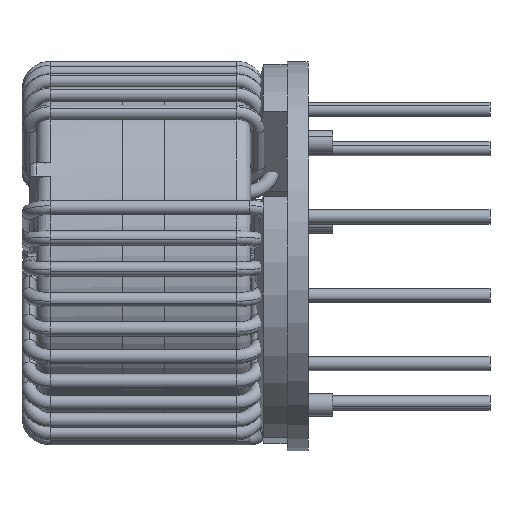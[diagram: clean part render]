
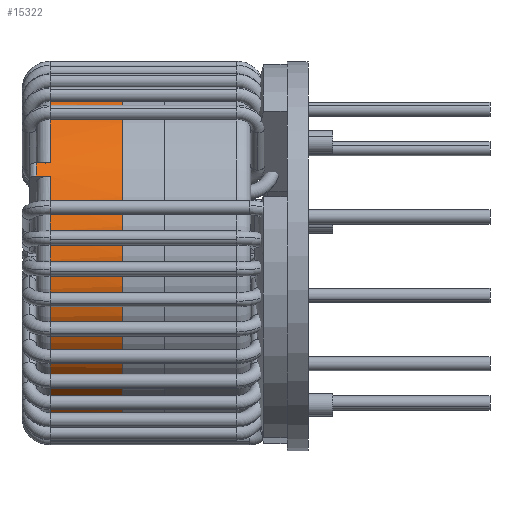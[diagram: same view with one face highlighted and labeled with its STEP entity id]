
A CAD part, left-side view. The second image highlights one B-rep face of the part: STEP entity #15322.
In plain terms, the highlighted cylindrical face has radius 12.5 mm (diameter 25 mm), a partial arc.
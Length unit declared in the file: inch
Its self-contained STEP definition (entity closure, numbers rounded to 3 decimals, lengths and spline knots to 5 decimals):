
#1398 = CARTESIAN_POINT ( 'NONE',  ( 0., 0.26414, 0. ) ) ;
#1488 = LINE ( 'NONE', #17564, #2084 ) ;
#2084 = VECTOR ( 'NONE', #5197, 39.37008 ) ;
#2673 = EDGE_CURVE ( 'NONE', #7627, #4519, #6590, .T. ) ;
#2676 = EDGE_CURVE ( 'NONE', #13540, #11948, #1488, .T. ) ;
#3465 = FACE_OUTER_BOUND ( 'NONE', #15263, .T. ) ;
#4116 = EDGE_CURVE ( 'NONE', #13121, #6235, #28099, .T. ) ;
#4519 = VERTEX_POINT ( 'NONE', #11936 ) ;
#5197 = DIRECTION ( 'NONE',  ( 0., 1., 0. ) ) ;
#5205 = ORIENTED_EDGE ( 'NONE', *, *, #4116, .T. ) ;
#5305 = DIRECTION ( 'NONE',  ( 0., -1., 0. ) ) ;
#5404 = CARTESIAN_POINT ( 'NONE',  ( 0., 0.30351, -0.49213 ) ) ;
#5520 = AXIS2_PLACEMENT_3D ( 'NONE', #17673, #5305, #19038 ) ;
#6235 = VERTEX_POINT ( 'NONE', #25144 ) ;
#6239 = VECTOR ( 'NONE', #24520, 39.37008 ) ;
#6578 = CARTESIAN_POINT ( 'NONE',  ( -0.4366, 0.26414, 0.22709 ) ) ;
#6590 = LINE ( 'NONE', #16663, #13218 ) ;
#6687 = VECTOR ( 'NONE', #25268, 39.37008 ) ;
#6707 = CARTESIAN_POINT ( 'NONE',  ( 0., 0.26414, 0. ) ) ;
#7139 = CARTESIAN_POINT ( 'NONE',  ( 0., 0.26414, 0.49213 ) ) ;
#7251 = CIRCLE ( 'NONE', #19429, 0.49213 ) ;
#7627 = VERTEX_POINT ( 'NONE', #7139 ) ;
#8431 = ORIENTED_EDGE ( 'NONE', *, *, #2676, .F. ) ;
#8796 = CIRCLE ( 'NONE', #15620, 0.49213 ) ;
#9249 = DIRECTION ( 'NONE',  ( 0., 1., 0. ) ) ;
#9411 = EDGE_CURVE ( 'NONE', #15785, #22560, #20160, .T. ) ;
#9482 = ORIENTED_EDGE ( 'NONE', *, *, #27145, .T. ) ;
#9705 = CARTESIAN_POINT ( 'NONE',  ( 0., 0.30351, 0. ) ) ;
#10078 = EDGE_CURVE ( 'NONE', #19895, #11948, #14192, .T. ) ;
#10574 = CARTESIAN_POINT ( 'NONE',  ( -0.02163, 0.24446, -0.49165 ) ) ;
#11366 = DIRECTION ( 'NONE',  ( 0., 1., 0. ) ) ;
#11738 = LINE ( 'NONE', #27506, #6687 ) ;
#11936 = CARTESIAN_POINT ( 'NONE',  ( 0., 0.05906, 0.49213 ) ) ;
#11948 = VERTEX_POINT ( 'NONE', #20629 ) ;
#12114 = ORIENTED_EDGE ( 'NONE', *, *, #9411, .T. ) ;
#13036 = DIRECTION ( 'NONE',  ( 0., -1., 0. ) ) ;
#13121 = VERTEX_POINT ( 'NONE', #5404 ) ;
#13148 = CIRCLE ( 'NONE', #26070, 0.49213 ) ;
#13218 = VECTOR ( 'NONE', #13036, 39.37008 ) ;
#13419 = DIRECTION ( 'NONE',  ( 0., 0., 1. ) ) ;
#13540 = VERTEX_POINT ( 'NONE', #6578 ) ;
#14192 = CIRCLE ( 'NONE', #15935, 0.49213 ) ;
#14308 = DIRECTION ( 'NONE',  ( 0., 0., 1. ) ) ;
#14807 = ORIENTED_EDGE ( 'NONE', *, *, #2673, .F. ) ;
#15012 = DIRECTION ( 'NONE',  ( 0., 0., 1. ) ) ;
#15263 = EDGE_LOOP ( 'NONE', ( #14807, #18788, #9482, #18919, #8431, #23805, #12114, #28043, #5205, #15693 ) ) ;
#15322 = ADVANCED_FACE ( 'NONE', ( #3465 ), #16796, .T. ) ;
#15620 = AXIS2_PLACEMENT_3D ( 'NONE', #19986, #11366, #15012 ) ;
#15693 = ORIENTED_EDGE ( 'NONE', *, *, #19272, .T. ) ;
#15785 = VERTEX_POINT ( 'NONE', #21062 ) ;
#15935 = AXIS2_PLACEMENT_3D ( 'NONE', #9705, #22862, #13419 ) ;
#16273 = EDGE_CURVE ( 'NONE', #13540, #15785, #13148, .T. ) ;
#16489 = CIRCLE ( 'NONE', #19795, 0.49213 ) ;
#16510 = VECTOR ( 'NONE', #9249, 39.37008 ) ;
#16663 = CARTESIAN_POINT ( 'NONE',  ( 0., 0.30351, 0.49213 ) ) ;
#16796 = CYLINDRICAL_SURFACE ( 'NONE', #5520, 0.49213 ) ;
#17564 = CARTESIAN_POINT ( 'NONE',  ( -0.4366, 0.24446, 0.22709 ) ) ;
#17673 = CARTESIAN_POINT ( 'NONE',  ( 0., 0.30351, 0. ) ) ;
#18788 = ORIENTED_EDGE ( 'NONE', *, *, #25477, .T. ) ;
#18919 = ORIENTED_EDGE ( 'NONE', *, *, #10078, .T. ) ;
#19038 = DIRECTION ( 'NONE',  ( 0., 0., -1. ) ) ;
#19046 = DIRECTION ( 'NONE',  ( 0., 0., 1. ) ) ;
#19139 = CARTESIAN_POINT ( 'NONE',  ( -0.41497, 0.26414, 0.26456 ) ) ;
#19272 = EDGE_CURVE ( 'NONE', #6235, #4519, #8796, .T. ) ;
#19429 = AXIS2_PLACEMENT_3D ( 'NONE', #1398, #26453, #14308 ) ;
#19795 = AXIS2_PLACEMENT_3D ( 'NONE', #27099, #19933, #19046 ) ;
#19895 = VERTEX_POINT ( 'NONE', #25211 ) ;
#19933 = DIRECTION ( 'NONE',  ( 0., -1., 0. ) ) ;
#19986 = CARTESIAN_POINT ( 'NONE',  ( 0., 0.05906, 0. ) ) ;
#20160 = LINE ( 'NONE', #10574, #16510 ) ;
#20629 = CARTESIAN_POINT ( 'NONE',  ( -0.4366, 0.30351, 0.22709 ) ) ;
#21062 = CARTESIAN_POINT ( 'NONE',  ( -0.02163, 0.26414, -0.49165 ) ) ;
#21265 = DIRECTION ( 'NONE',  ( 0., 0., 1. ) ) ;
#21369 = CARTESIAN_POINT ( 'NONE',  ( 0., 0.30351, -0.49213 ) ) ;
#22560 = VERTEX_POINT ( 'NONE', #27378 ) ;
#22862 = DIRECTION ( 'NONE',  ( 0., -1., 0. ) ) ;
#22953 = VERTEX_POINT ( 'NONE', #19139 ) ;
#23805 = ORIENTED_EDGE ( 'NONE', *, *, #16273, .T. ) ;
#24520 = DIRECTION ( 'NONE',  ( 0., -1., 0. ) ) ;
#25144 = CARTESIAN_POINT ( 'NONE',  ( 0., 0.05906, -0.49213 ) ) ;
#25211 = CARTESIAN_POINT ( 'NONE',  ( -0.41497, 0.30351, 0.26456 ) ) ;
#25268 = DIRECTION ( 'NONE',  ( 0., 1., 0. ) ) ;
#25290 = DIRECTION ( 'NONE',  ( 0., -1., 0. ) ) ;
#25477 = EDGE_CURVE ( 'NONE', #7627, #22953, #7251, .T. ) ;
#26070 = AXIS2_PLACEMENT_3D ( 'NONE', #6707, #25290, #21265 ) ;
#26453 = DIRECTION ( 'NONE',  ( 0., -1., 0. ) ) ;
#26564 = EDGE_CURVE ( 'NONE', #22560, #13121, #16489, .T. ) ;
#27099 = CARTESIAN_POINT ( 'NONE',  ( 0., 0.30351, 0. ) ) ;
#27145 = EDGE_CURVE ( 'NONE', #22953, #19895, #11738, .T. ) ;
#27378 = CARTESIAN_POINT ( 'NONE',  ( -0.02163, 0.30351, -0.49165 ) ) ;
#27506 = CARTESIAN_POINT ( 'NONE',  ( -0.41497, 0.24446, 0.26456 ) ) ;
#28043 = ORIENTED_EDGE ( 'NONE', *, *, #26564, .T. ) ;
#28099 = LINE ( 'NONE', #21369, #6239 ) ;
